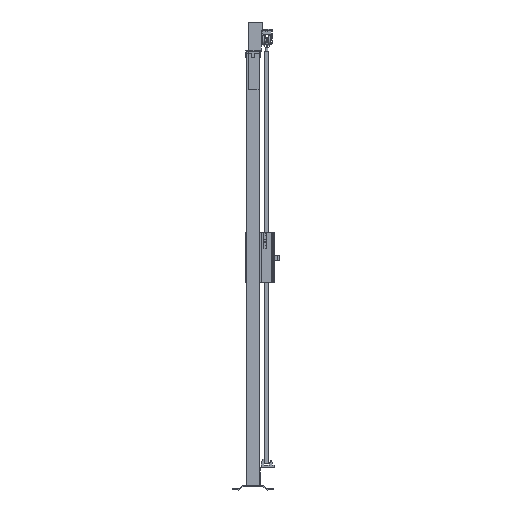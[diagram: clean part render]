
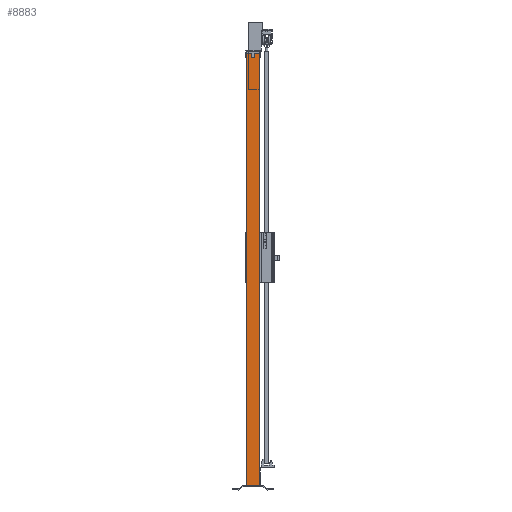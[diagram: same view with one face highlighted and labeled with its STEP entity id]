
A CAD part, left-side view. The second image highlights one B-rep face of the part: STEP entity #8883.
In plain terms, the highlighted planar face has unit normal (-1, 0, 0).
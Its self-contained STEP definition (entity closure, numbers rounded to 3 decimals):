
#968=FACE_OUTER_BOUND('',#1413,.T.);
#1413=EDGE_LOOP('',(#6801,#6802,#6803,#6804));
#2197=LINE('',#13442,#3373);
#2201=LINE('',#13451,#3377);
#2203=LINE('',#13454,#3379);
#2205=LINE('',#13457,#3381);
#3373=VECTOR('',#10644,1.);
#3377=VECTOR('',#10650,1.);
#3379=VECTOR('',#10654,1.);
#3381=VECTOR('',#10658,1.);
#4307=VERTEX_POINT('',#13439);
#4308=VERTEX_POINT('',#13441);
#4311=VERTEX_POINT('',#13448);
#4312=VERTEX_POINT('',#13450);
#5253=EDGE_CURVE('',#4307,#4308,#2197,.T.);
#5257=EDGE_CURVE('',#4311,#4312,#2201,.T.);
#5259=EDGE_CURVE('',#4308,#4311,#2203,.T.);
#5261=EDGE_CURVE('',#4307,#4312,#2205,.T.);
#6801=ORIENTED_EDGE('',*,*,#5261,.T.);
#6802=ORIENTED_EDGE('',*,*,#5257,.F.);
#6803=ORIENTED_EDGE('',*,*,#5259,.F.);
#6804=ORIENTED_EDGE('',*,*,#5253,.F.);
#8477=PLANE('',#9391);
#8883=ADVANCED_FACE('',(#968),#8477,.F.);
#9391=AXIS2_PLACEMENT_3D('',#13456,#10656,#10657);
#10644=DIRECTION('',(0.,-1.,0.));
#10650=DIRECTION('',(0.,1.,0.));
#10654=DIRECTION('',(0.,0.,-1.));
#10656=DIRECTION('center_axis',(1.,0.,0.));
#10657=DIRECTION('ref_axis',(0.,0.,-1.));
#10658=DIRECTION('',(0.,0.,-1.));
#13439=CARTESIAN_POINT('',(-30.,30.,2020.));
#13441=CARTESIAN_POINT('',(-30.,-30.,2020.));
#13442=CARTESIAN_POINT('',(-30.,0.,2020.));
#13448=CARTESIAN_POINT('',(-30.,-30.,20.));
#13450=CARTESIAN_POINT('',(-30.,30.,20.));
#13451=CARTESIAN_POINT('',(-30.,0.,20.));
#13454=CARTESIAN_POINT('',(-30.,-30.,1020.));
#13456=CARTESIAN_POINT('Origin',(-30.,0.,
1020.));
#13457=CARTESIAN_POINT('',(-30.,30.,1020.));
